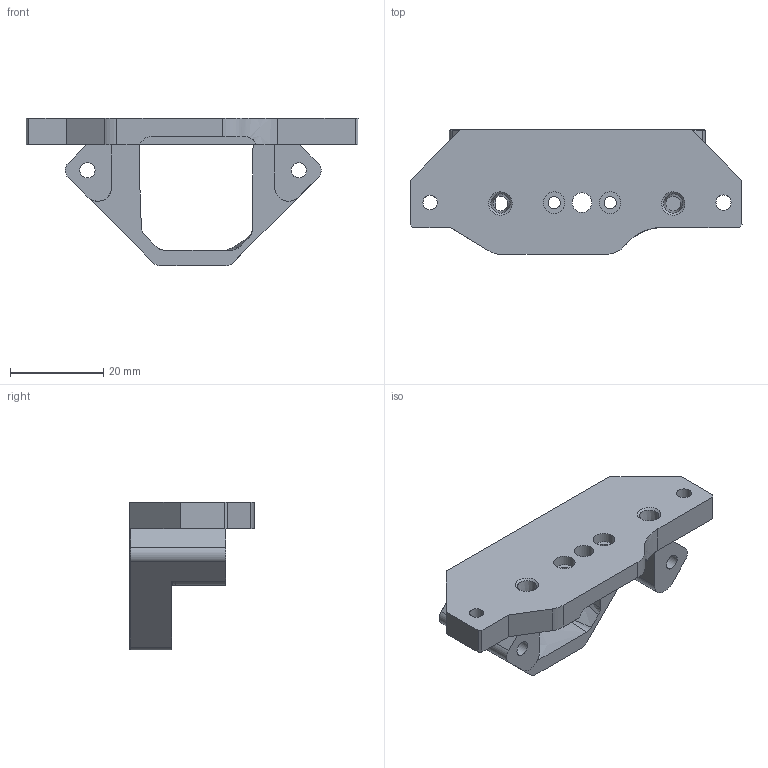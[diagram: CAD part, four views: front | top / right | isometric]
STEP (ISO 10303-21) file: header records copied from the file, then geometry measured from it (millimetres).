
FILE_DESCRIPTION(/* description */ (''),/* implementation_level */ '2;1');
FILE_NAME(/* name */ 'C:/Users/Martin/Documents/icarus-2.1/icarus-2-current-step-files/2-mounts/mount-orbiter-2.0-mosquito-2.1.step',/* time_stamp */ '2022-08-22T21:28:22+02:00',/* author */ (''),/* organization */ (''),/* preprocessor_version */ 'ST-DEVELOPER v19',/* originating_system */ 'Autodesk Translation Framework v11.7.0.108',/* authorisation */ '');
FILE_SCHEMA (('AUTOMOTIVE_DESIGN { 1 0 10303 214 3 1 1 }'));
Length unit declared in the file: millimetre
Products named in the file (1): icarus-2-hotend-extruder-mounts
Bounding box: 71.07 x 26.66 x 31.68 mm (x, y, z)
Volume: 12607.7 mm3; surface area: 7382.9 mm2
Topology: 1 solids, 1 shells, 98 faces, 275 edges, 180 vertices
Faces by surface type: plane 49, cylinder 24, bspline 17, cone 8
Full cylindrical faces by diameter (mm): 2.6 x2, 3.1 x1, 3.2 x2, 3.25 x4, 4.2 x1, 4.6 x2
Entity records: 4144 total; most frequent: CARTESIAN_POINT 1626, ORIENTED_EDGE 550, DIRECTION 454, EDGE_CURVE 275, VERTEX_POINT 180, LINE 160, VECTOR 160, AXIS2_PLACEMENT_3D 147
